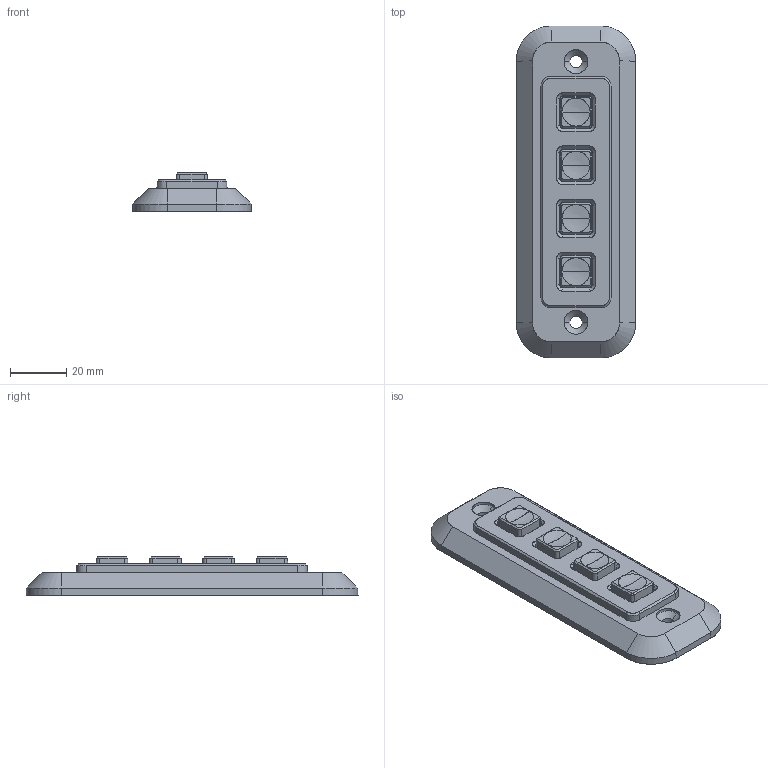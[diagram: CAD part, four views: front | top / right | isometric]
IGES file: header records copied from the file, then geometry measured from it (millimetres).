
Start section: SolidWorks IGES file using analytic representation for surfaces
Global section: file name: C:\Documents and Settings\tracys.STORMINTERFACE\Desktop\website models\K-RANGE-4WAY.IGS; native system: SolidWorks 2006 by SolidWorks Corporation; preprocessor: SolidWorks 2006 by SolidWorks Corporation; author: tracys; date: 051027.172236; units: millimetre
Bounding box: 42.5 x 118.5 x 13.6 mm (x, y, z)
Surface area: 14055.8 mm2 (no closed solid volume)
Topology: 0 solids, 0 shells, 193 faces, 1925 edges, 1921 vertices
Faces by surface type: revolution 108, bspline 85
